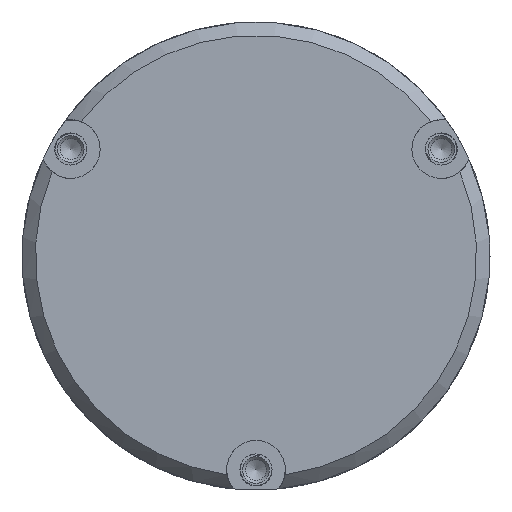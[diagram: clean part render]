
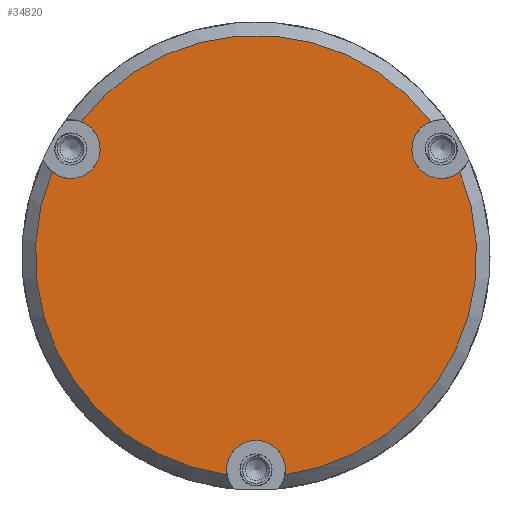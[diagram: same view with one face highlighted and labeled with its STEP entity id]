
A CAD part, left-side view. The second image highlights one B-rep face of the part: STEP entity #34820.
In plain terms, the highlighted planar face has unit normal (-1, 0, 0) as drawn and (0, 0, -1) by its records, which use the part's own axes.
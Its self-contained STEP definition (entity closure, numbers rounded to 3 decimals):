
#34124=CARTESIAN_POINT('',(15.251,-6.298,0.0));
#34125=VERTEX_POINT('',#34124);
#34151=CARTESIAN_POINT('',(13.08,-10.058,0.0));
#34152=VERTEX_POINT('',#34151);
#34163=CARTESIAN_POINT('',(13.856,-8.,0.0));
#34164=DIRECTION('',(0.0,0.0,1.));
#34165=DIRECTION('',(0.5,0.866,0.0));
#34166=AXIS2_PLACEMENT_3D('',#34163,#34164,#34165);
#34167=CIRCLE('',#34166,2.2);
#34168=EDGE_CURVE('',#34125,#34152,#34167,.T.);
#34304=CARTESIAN_POINT('',(-13.08,-10.058,0.0));
#34305=VERTEX_POINT('',#34304);
#34331=CARTESIAN_POINT('',(-15.251,-6.298,0.0));
#34332=VERTEX_POINT('',#34331);
#34343=CARTESIAN_POINT('',(-13.856,-8.,0.0));
#34344=DIRECTION('',(0.0,0.0,1.0));
#34345=DIRECTION('',(0.5,-0.866,0.0));
#34346=AXIS2_PLACEMENT_3D('',#34343,#34344,#34345);
#34347=CIRCLE('',#34346,2.2);
#34348=EDGE_CURVE('',#34305,#34332,#34347,.T.);
#34523=CARTESIAN_POINT('',(2.171,16.357,0.0));
#34524=VERTEX_POINT('',#34523);
#34525=CARTESIAN_POINT('',(0.0,0.0,0.0));
#34526=DIRECTION('',(0.0,0.0,1.0));
#34527=DIRECTION('',(-1.0,0.0,0.0));
#34528=AXIS2_PLACEMENT_3D('',#34525,#34526,#34527);
#34529=CIRCLE('',#34528,16.5);
#34530=EDGE_CURVE('',#34125,#34524,#34529,.T.);
#34553=CARTESIAN_POINT('',(-2.171,16.357,0.0));
#34554=VERTEX_POINT('',#34553);
#34565=CARTESIAN_POINT('',(0.0,0.0,0.0));
#34566=DIRECTION('',(0.0,0.0,1.0));
#34567=DIRECTION('',(-1.0,0.0,0.0));
#34568=AXIS2_PLACEMENT_3D('',#34565,#34566,#34567);
#34569=CIRCLE('',#34568,16.5);
#34570=EDGE_CURVE('',#34554,#34332,#34569,.T.);
#34742=CARTESIAN_POINT('',(0.0,16.0,0.0));
#34743=DIRECTION('',(0.0,0.0,1.0));
#34744=DIRECTION('',(-1.0,0.0,0.0));
#34745=AXIS2_PLACEMENT_3D('',#34742,#34743,#34744);
#34746=CIRCLE('',#34745,2.2);
#34747=EDGE_CURVE('',#34554,#34524,#34746,.T.);
#34801=CARTESIAN_POINT('',(0.0,0.0,0.0));
#34802=DIRECTION('',(0.0,0.0,-1.0));
#34803=DIRECTION('',(-1.0,0.0,0.0));
#34804=AXIS2_PLACEMENT_3D('',#34801,#34802,#34803);
#34805=PLANE('',#34804);
#34806=ORIENTED_EDGE('',*,*,#34168,.T.);
#34807=CARTESIAN_POINT('',(0.0,0.0,0.0));
#34808=DIRECTION('',(0.0,0.0,1.0));
#34809=DIRECTION('',(-1.0,0.0,0.0));
#34810=AXIS2_PLACEMENT_3D('',#34807,#34808,#34809);
#34811=CIRCLE('',#34810,16.5);
#34812=EDGE_CURVE('',#34305,#34152,#34811,.T.);
#34813=ORIENTED_EDGE('',*,*,#34812,.F.);
#34814=ORIENTED_EDGE('',*,*,#34348,.T.);
#34815=ORIENTED_EDGE('',*,*,#34570,.F.);
#34816=ORIENTED_EDGE('',*,*,#34747,.T.);
#34817=ORIENTED_EDGE('',*,*,#34530,.F.);
#34818=EDGE_LOOP('',(#34806,#34813,#34814,#34815,#34816,#34817));
#34819=FACE_OUTER_BOUND('',#34818,.T.);
#34820=ADVANCED_FACE('',(#34819),#34805,.T.);
